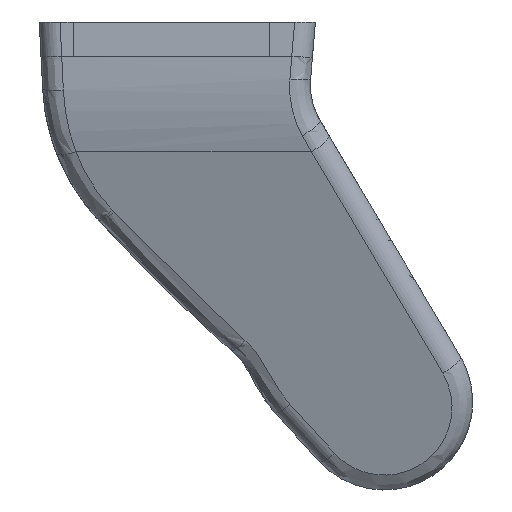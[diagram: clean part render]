
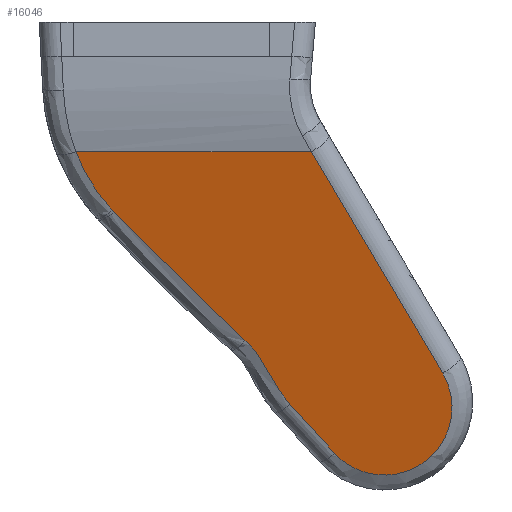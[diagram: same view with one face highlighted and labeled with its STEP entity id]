
A CAD part, left-side view. The second image highlights one B-rep face of the part: STEP entity #16046.
In plain terms, the highlighted planar face has unit normal (-0.961, 0, -0.277).
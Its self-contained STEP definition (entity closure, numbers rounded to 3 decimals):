
#3997 = B_SPLINE_CURVE_WITH_KNOTS ( 'NONE', 3,
 ( #10227, #10228, #10233, #10234, #10235, #10236, #10237, #10238, #10239, #10240, #10241, #10242 ),
 .UNSPECIFIED., .F., .F.,
 ( 4, 2, 2, 2, 2, 4 ),
 ( 0., 0.003, 0.006, 0.009, 0.01, 0.012 ),
 .UNSPECIFIED. ) ;
#8604 = VERTEX_POINT ( 'NONE', #18689 ) ;
#8605 = VERTEX_POINT ( 'NONE', #18690 ) ;
#8606 = VERTEX_POINT ( 'NONE', #18691 ) ;
#8607 = VERTEX_POINT ( 'NONE', #18692 ) ;
#8608 = VERTEX_POINT ( 'NONE', #18693 ) ;
#8609 = VERTEX_POINT ( 'NONE', #18694 ) ;
#8610 = VERTEX_POINT ( 'NONE', #18695 ) ;
#8613 = VERTEX_POINT ( 'NONE', #18698 ) ;
#8834 =( BOUNDED_CURVE ( )  B_SPLINE_CURVE ( 3, ( #10255, #10263, #10264, #10265 ),
 .UNSPECIFIED., .F., .T. ) 
 B_SPLINE_CURVE_WITH_KNOTS ( ( 4, 4 ),
 ( 3.971, 4.342 ),
 .UNSPECIFIED. ) 
 CURVE ( )  GEOMETRIC_REPRESENTATION_ITEM ( )  RATIONAL_B_SPLINE_CURVE ( ( 1., 0.989, 0.989, 1. ) ) 
 REPRESENTATION_ITEM ( '' )  );
#8835 =( BOUNDED_CURVE ( )  B_SPLINE_CURVE ( 3, ( #10262, #10269, #10270, #10271 ),
 .UNSPECIFIED., .F., .T. ) 
 B_SPLINE_CURVE_WITH_KNOTS ( ( 4, 4 ),
 ( 3.876, 4.902 ),
 .UNSPECIFIED. ) 
 CURVE ( )  GEOMETRIC_REPRESENTATION_ITEM ( )  RATIONAL_B_SPLINE_CURVE ( ( 1., 0.914, 0.914, 1. ) ) 
 REPRESENTATION_ITEM ( '' )  );
#8837 =( BOUNDED_CURVE ( )  B_SPLINE_CURVE ( 3, ( #10272, #10286, #10287, #10288 ),
 .UNSPECIFIED., .F., .T. ) 
 B_SPLINE_CURVE_WITH_KNOTS ( ( 4, 4 ),
 ( 1.035, 3.971 ),
 .UNSPECIFIED. ) 
 CURVE ( )  GEOMETRIC_REPRESENTATION_ITEM ( )  RATIONAL_B_SPLINE_CURVE ( ( 1., 0.402, 0.402, 1. ) ) 
 REPRESENTATION_ITEM ( '' )  );
#10154 = CARTESIAN_POINT ( 'NONE',  ( -910.302, 308.428, 23.045 ) ) ;
#10155 = LINE ( 'NONE', #10154, #17584 ) ;
#10172 = DIRECTION ( 'NONE',  ( 0., 1., 0. ) ) ;
#10223 = LINE ( 'NONE', #10232, #17595 ) ;
#10227 = CARTESIAN_POINT ( 'NONE',  ( -899.747, 334.912, -13.566 ) ) ;
#10228 = CARTESIAN_POINT ( 'NONE',  ( -899.951, 335.561, -12.857 ) ) ;
#10232 = CARTESIAN_POINT ( 'NONE',  ( -902.057, 342.251, -5.552 ) ) ;
#10233 = CARTESIAN_POINT ( 'NONE',  ( -900.174, 336.104, -12.084 ) ) ;
#10234 = CARTESIAN_POINT ( 'NONE',  ( -900.636, 337.103, -10.483 ) ) ;
#10235 = CARTESIAN_POINT ( 'NONE',  ( -900.875, 337.555, -9.654 ) ) ;
#10236 = CARTESIAN_POINT ( 'NONE',  ( -901.351, 338.471, -8.003 ) ) ;
#10237 = CARTESIAN_POINT ( 'NONE',  ( -901.588, 338.934, -7.181 ) ) ;
#10238 = CARTESIAN_POINT ( 'NONE',  ( -901.92, 339.755, -6.03 ) ) ;
#10239 = CARTESIAN_POINT ( 'NONE',  ( -902.026, 340.051, -5.66 ) ) ;
#10240 = CARTESIAN_POINT ( 'NONE',  ( -902.229, 340.7, -4.958 ) ) ;
#10241 = CARTESIAN_POINT ( 'NONE',  ( -902.325, 341.055, -4.625 ) ) ;
#10242 = CARTESIAN_POINT ( 'NONE',  ( -902.415, 341.428, -4.313 ) ) ;
#10246 = DIRECTION ( 'NONE',  ( -0.208, 0.661, 0.721 ) ) ;
#10255 = CARTESIAN_POINT ( 'NONE',  ( -907.86, 360.684, 14.577 ) ) ;
#10262 = CARTESIAN_POINT ( 'NONE',  ( -902.415, 341.428, -4.313 ) ) ;
#10263 = CARTESIAN_POINT ( 'NONE',  ( -908.575, 362.954, 17.056 ) ) ;
#10264 = CARTESIAN_POINT ( 'NONE',  ( -909.398, 364.727, 19.912 ) ) ;
#10265 = CARTESIAN_POINT ( 'NONE',  ( -910.302, 365.943, 23.045 ) ) ;
#10266 = LINE ( 'NONE', #10267, #17603 ) ;
#10267 = CARTESIAN_POINT ( 'NONE',  ( -902.057, 342.251, -5.552 ) ) ;
#10268 = DIRECTION ( 'NONE',  ( -0.208, 0.661, 0.721 ) ) ;
#10269 = CARTESIAN_POINT ( 'NONE',  ( -903.695, 346.738, 0.128 ) ) ;
#10270 = CARTESIAN_POINT ( 'NONE',  ( -905.653, 353.671, 6.919 ) ) ;
#10271 = CARTESIAN_POINT ( 'NONE',  ( -907.785, 360.444, 14.315 ) ) ;
#10272 = CARTESIAN_POINT ( 'NONE',  ( -901.065, 312.802, -8.994 ) ) ;
#10286 = CARTESIAN_POINT ( 'NONE',  ( -897.055, 304.541, -22.904 ) ) ;
#10287 = CARTESIAN_POINT ( 'NONE',  ( -894.275, 317.529, -32.548 ) ) ;
#10288 = CARTESIAN_POINT ( 'NONE',  ( -897.714, 328.455, -20.617 ) ) ;
#10309 = CARTESIAN_POINT ( 'NONE',  ( -907.511, 326.081, 13.365 ) ) ;
#10310 = LINE ( 'NONE', #10309, #17612 ) ;
#10319 = DIRECTION ( 'NONE',  ( 0.241, -0.496, -0.835 ) ) ;
#14255 = EDGE_CURVE ( 'NONE', #8610, #8613, #10155, .T. ) ;
#14272 = EDGE_CURVE ( 'NONE', #8607, #8608, #3997, .T. ) ;
#14274 = EDGE_CURVE ( 'NONE', #8606, #8607, #10223, .T. ) ;
#14279 = EDGE_CURVE ( 'NONE', #8609, #8613, #8834, .T. ) ;
#14280 = EDGE_CURVE ( 'NONE', #8605, #8609, #10266, .T. ) ;
#14281 = EDGE_CURVE ( 'NONE', #8608, #8605, #8835, .T. ) ;
#14286 = EDGE_CURVE ( 'NONE', #8604, #8606, #8837, .T. ) ;
#14291 = EDGE_CURVE ( 'NONE', #8610, #8604, #10310, .T. ) ;
#16046 = ADVANCED_FACE ( 'NONE', ( #21044 ), #21046, .T. ) ;
#17584 = VECTOR ( 'NONE', #10172, 1000. ) ;
#17595 = VECTOR ( 'NONE', #10246, 1000. ) ;
#17603 = VECTOR ( 'NONE', #10268, 1000. ) ;
#17612 = VECTOR ( 'NONE', #10319, 1000. ) ;
#18689 = CARTESIAN_POINT ( 'NONE',  ( -901.065, 312.802, -8.994 ) ) ;
#18690 = CARTESIAN_POINT ( 'NONE',  ( -907.785, 360.444, 14.315 ) ) ;
#18691 = CARTESIAN_POINT ( 'NONE',  ( -897.714, 328.455, -20.617 ) ) ;
#18692 = CARTESIAN_POINT ( 'NONE',  ( -899.747, 334.912, -13.566 ) ) ;
#18693 = CARTESIAN_POINT ( 'NONE',  ( -902.415, 341.428, -4.313 ) ) ;
#18694 = CARTESIAN_POINT ( 'NONE',  ( -907.86, 360.684, 14.577 ) ) ;
#18695 = CARTESIAN_POINT ( 'NONE',  ( -910.302, 331.831, 23.045 ) ) ;
#18698 = CARTESIAN_POINT ( 'NONE',  ( -910.302, 365.943, 23.045 ) ) ;
#19292 = AXIS2_PLACEMENT_3D ( 'NONE', #21040, #21050, #21052 ) ;
#19706 = EDGE_LOOP ( 'NONE', ( #20068, #20069, #20070, #20071, #20072, #20073, #20074, #20075 ) ) ;
#20068 = ORIENTED_EDGE ( 'NONE', *, *, #14255, .T. ) ;
#20069 = ORIENTED_EDGE ( 'NONE', *, *, #14279, .F. ) ;
#20070 = ORIENTED_EDGE ( 'NONE', *, *, #14280, .F. ) ;
#20071 = ORIENTED_EDGE ( 'NONE', *, *, #14281, .F. ) ;
#20072 = ORIENTED_EDGE ( 'NONE', *, *, #14272, .F. ) ;
#20073 = ORIENTED_EDGE ( 'NONE', *, *, #14274, .F. ) ;
#20074 = ORIENTED_EDGE ( 'NONE', *, *, #14286, .F. ) ;
#20075 = ORIENTED_EDGE ( 'NONE', *, *, #14291, .F. ) ;
#21040 = CARTESIAN_POINT ( 'NONE',  ( -910.302, 308.428, 23.045 ) ) ;
#21044 = FACE_OUTER_BOUND ( 'NONE', #19706, .T. ) ;
#21046 = PLANE ( 'NONE',  #19292 ) ;
#21050 = DIRECTION ( 'NONE',  ( -0.961, 0., -0.277 ) ) ;
#21052 = DIRECTION ( 'NONE',  ( -0.277, 0., 0.961 ) ) ;
